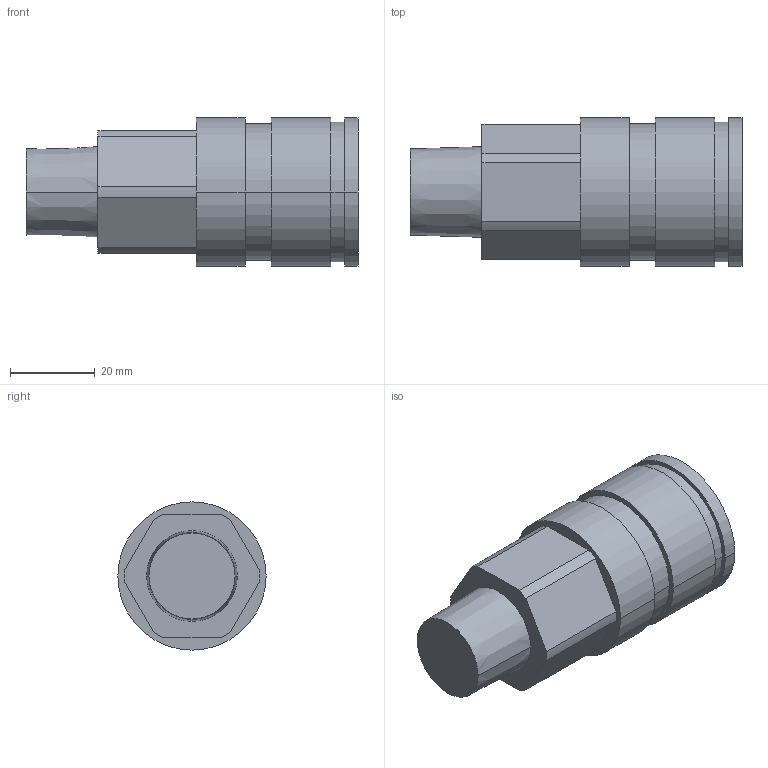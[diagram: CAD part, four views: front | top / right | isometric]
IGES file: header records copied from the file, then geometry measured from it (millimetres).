
Global section: file name: No Iges File Name specified; native system: Autodesk Inventor 2009; preprocessor: AutoDesk Inventor Iges Exporter R2009; author: y-shimohigashi; date: 20080701.161236; units: millimetre
Bounding box: 78.4 x 35 x 35 mm (x, y, z)
Volume: 46128.7 mm3; surface area: 11963.1 mm2
Topology: 1 solids, 1 shells, 35 faces, 78 edges, 52 vertices
Faces by surface type: cylinder 16, plane 15, cone 2, revolution 2
